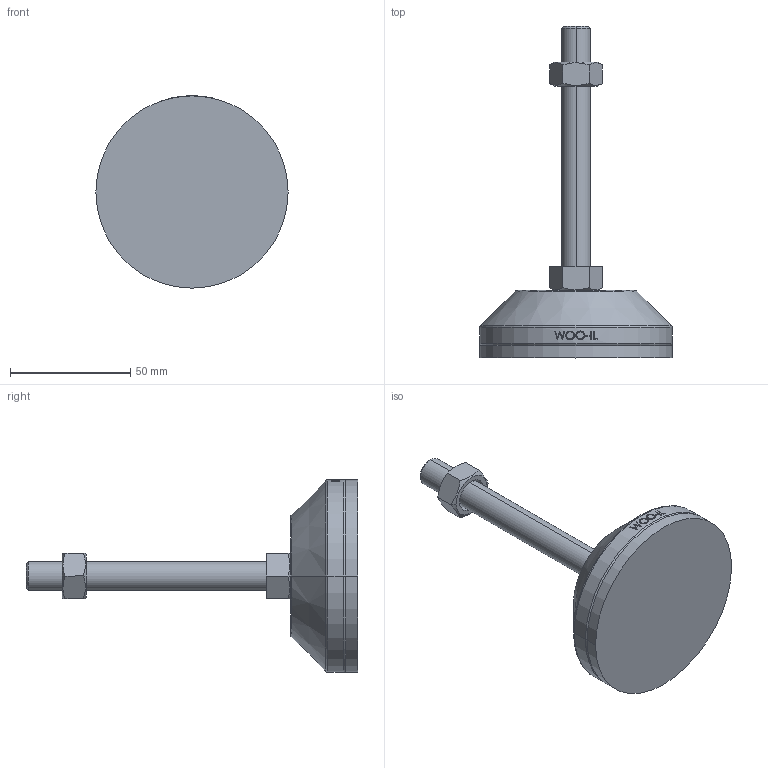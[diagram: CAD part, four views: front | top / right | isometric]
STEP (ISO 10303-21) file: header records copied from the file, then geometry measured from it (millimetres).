
FILE_DESCRIPTION (( 'STEP AP214' ), '1' );
FILE_NAME ('NHNR80-M12-100.step', '2021-01-25T06:20:52', ( '' ), ( '' ), 'SwSTEP 2.0', 'SolidWorks 2019', '' );
FILE_SCHEMA (( 'AUTOMOTIVE_DESIGN' ));
Length unit declared in the file: millimetre
Products named in the file (2): NHNR80-M12-100
Bounding box: 80 x 138 x 80 mm (x, y, z)
Volume: 131571.9 mm3; surface area: 31159.3 mm2
Topology: 4 solids, 4 shells, 105 faces, 239 edges, 152 vertices
Faces by surface type: plane 49, cylinder 18, bspline 16, cone 14, torus 8
Entity records: 4363 total; most frequent: CARTESIAN_POINT 2046, ORIENTED_EDGE 478, DIRECTION 429, EDGE_CURVE 239, AXIS2_PLACEMENT_3D 165, VERTEX_POINT 152, EDGE_LOOP 117, FACE_OUTER_BOUND 105
